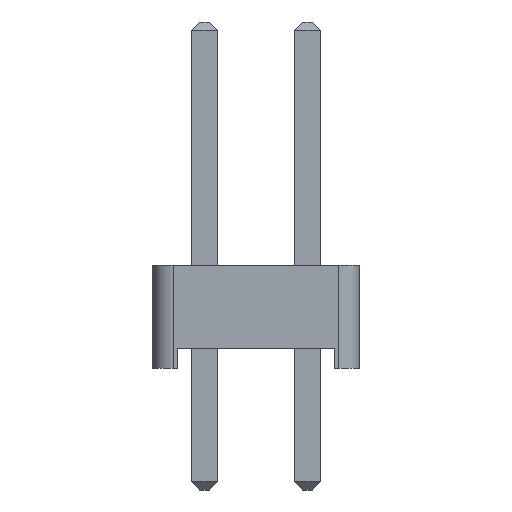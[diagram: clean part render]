
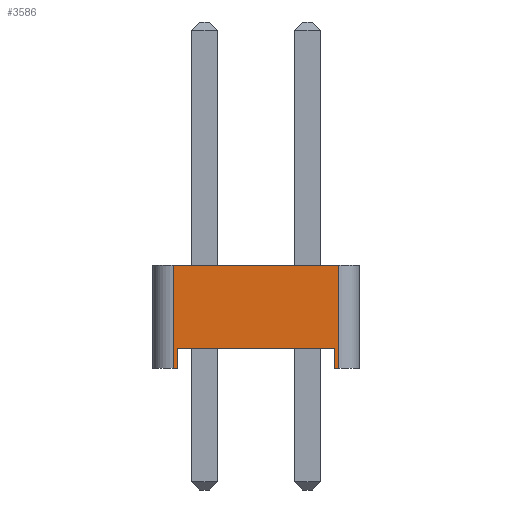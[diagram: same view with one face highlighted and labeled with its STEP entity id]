
A CAD part, left-side view. The second image highlights one B-rep face of the part: STEP entity #3586.
In plain terms, the highlighted planar face has unit normal (-1, 0, 0).
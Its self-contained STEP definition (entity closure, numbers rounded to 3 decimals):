
#3326 = VERTEX_POINT('',#3327);
#3327 = CARTESIAN_POINT('',(-1.27,2.04,0.));
#3335 = PLANE('',#3336);
#3336 = AXIS2_PLACEMENT_3D('',#3337,#3338,#3339);
#3337 = CARTESIAN_POINT('',(0.,0.,0.));
#3338 = DIRECTION('',(-0.,-0.,-1.));
#3339 = DIRECTION('',(-1.,0.,0.));
#3351 = CYLINDRICAL_SURFACE('',#3352,0.5);
#3352 = AXIS2_PLACEMENT_3D('',#3353,#3354,#3355);
#3353 = CARTESIAN_POINT('',(-0.77,2.04,0.));
#3354 = DIRECTION('',(0.,0.,1.));
#3355 = DIRECTION('',(0.,1.,0.));
#3453 = VERTEX_POINT('',#3454);
#3454 = CARTESIAN_POINT('',(-1.27,1.94,0.));
#3468 = PLANE('',#3469);
#3469 = AXIS2_PLACEMENT_3D('',#3470,#3471,#3472);
#3470 = CARTESIAN_POINT('',(1.27,1.94,0.));
#3471 = DIRECTION('',(0.,-1.,0.));
#3472 = DIRECTION('',(-1.,0.,0.));
#3480 = EDGE_CURVE('',#3453,#3326,#3481,.T.);
#3481 = SURFACE_CURVE('',#3482,(#3486,#3493),.PCURVE_S1.);
#3482 = LINE('',#3483,#3484);
#3483 = CARTESIAN_POINT('',(-1.27,-2.54,0.));
#3484 = VECTOR('',#3485,1.);
#3485 = DIRECTION('',(0.,1.,0.));
#3486 = PCURVE('',#3335,#3487);
#3487 = DEFINITIONAL_REPRESENTATION('',(#3488),#3492);
#3488 = LINE('',#3489,#3490);
#3489 = CARTESIAN_POINT('',(1.27,-2.54));
#3490 = VECTOR('',#3491,1.);
#3491 = DIRECTION('',(0.,1.));
#3492 = ( GEOMETRIC_REPRESENTATION_CONTEXT(2) 
PARAMETRIC_REPRESENTATION_CONTEXT() REPRESENTATION_CONTEXT('2D SPACE',''
  ) );
#3493 = PCURVE('',#3494,#3499);
#3494 = PLANE('',#3495);
#3495 = AXIS2_PLACEMENT_3D('',#3496,#3497,#3498);
#3496 = CARTESIAN_POINT('',(-1.27,-2.54,0.));
#3497 = DIRECTION('',(-1.,0.,0.));
#3498 = DIRECTION('',(0.,1.,0.));
#3499 = DEFINITIONAL_REPRESENTATION('',(#3500),#3504);
#3500 = LINE('',#3501,#3502);
#3501 = CARTESIAN_POINT('',(0.,0.));
#3502 = VECTOR('',#3503,1.);
#3503 = DIRECTION('',(1.,0.));
#3504 = ( GEOMETRIC_REPRESENTATION_CONTEXT(2) 
PARAMETRIC_REPRESENTATION_CONTEXT() REPRESENTATION_CONTEXT('2D SPACE',''
  ) );
#3510 = EDGE_CURVE('',#3326,#3511,#3513,.T.);
#3511 = VERTEX_POINT('',#3512);
#3512 = CARTESIAN_POINT('',(-1.27,2.04,2.54));
#3513 = SURFACE_CURVE('',#3514,(#3518,#3525),.PCURVE_S1.);
#3514 = LINE('',#3515,#3516);
#3515 = CARTESIAN_POINT('',(-1.27,2.04,0.));
#3516 = VECTOR('',#3517,1.);
#3517 = DIRECTION('',(0.,0.,1.));
#3518 = PCURVE('',#3351,#3519);
#3519 = DEFINITIONAL_REPRESENTATION('',(#3520),#3524);
#3520 = LINE('',#3521,#3522);
#3521 = CARTESIAN_POINT('',(1.571,0.));
#3522 = VECTOR('',#3523,1.);
#3523 = DIRECTION('',(0.,1.));
#3524 = ( GEOMETRIC_REPRESENTATION_CONTEXT(2) 
PARAMETRIC_REPRESENTATION_CONTEXT() REPRESENTATION_CONTEXT('2D SPACE',''
  ) );
#3525 = PCURVE('',#3494,#3526);
#3526 = DEFINITIONAL_REPRESENTATION('',(#3527),#3531);
#3527 = LINE('',#3528,#3529);
#3528 = CARTESIAN_POINT('',(4.58,0.));
#3529 = VECTOR('',#3530,1.);
#3530 = DIRECTION('',(0.,-1.));
#3531 = ( GEOMETRIC_REPRESENTATION_CONTEXT(2) 
PARAMETRIC_REPRESENTATION_CONTEXT() REPRESENTATION_CONTEXT('2D SPACE',''
  ) );
#3550 = PLANE('',#3551);
#3551 = AXIS2_PLACEMENT_3D('',#3552,#3553,#3554);
#3552 = CARTESIAN_POINT('',(0.,0.,2.54));
#3553 = DIRECTION('',(-0.,-0.,-1.));
#3554 = DIRECTION('',(-1.,0.,0.));
#3586 = ADVANCED_FACE('',(#3587),#3494,.T.);
#3587 = FACE_BOUND('',#3588,.T.);
#3588 = EDGE_LOOP('',(#3589,#3619,#3647,#3668,#3669,#3670,#3693,#3721));
#3589 = ORIENTED_EDGE('',*,*,#3590,.F.);
#3590 = EDGE_CURVE('',#3591,#3593,#3595,.T.);
#3591 = VERTEX_POINT('',#3592);
#3592 = CARTESIAN_POINT('',(-1.27,-2.04,0.));
#3593 = VERTEX_POINT('',#3594);
#3594 = CARTESIAN_POINT('',(-1.27,-1.94,0.));
#3595 = SURFACE_CURVE('',#3596,(#3600,#3607),.PCURVE_S1.);
#3596 = LINE('',#3597,#3598);
#3597 = CARTESIAN_POINT('',(-1.27,-2.54,0.));
#3598 = VECTOR('',#3599,1.);
#3599 = DIRECTION('',(0.,1.,0.));
#3600 = PCURVE('',#3494,#3601);
#3601 = DEFINITIONAL_REPRESENTATION('',(#3602),#3606);
#3602 = LINE('',#3603,#3604);
#3603 = CARTESIAN_POINT('',(0.,0.));
#3604 = VECTOR('',#3605,1.);
#3605 = DIRECTION('',(1.,0.));
#3606 = ( GEOMETRIC_REPRESENTATION_CONTEXT(2) 
PARAMETRIC_REPRESENTATION_CONTEXT() REPRESENTATION_CONTEXT('2D SPACE',''
  ) );
#3607 = PCURVE('',#3608,#3613);
#3608 = PLANE('',#3609);
#3609 = AXIS2_PLACEMENT_3D('',#3610,#3611,#3612);
#3610 = CARTESIAN_POINT('',(0.,0.,0.));
#3611 = DIRECTION('',(-0.,-0.,-1.));
#3612 = DIRECTION('',(-1.,0.,0.));
#3613 = DEFINITIONAL_REPRESENTATION('',(#3614),#3618);
#3614 = LINE('',#3615,#3616);
#3615 = CARTESIAN_POINT('',(1.27,-2.54));
#3616 = VECTOR('',#3617,1.);
#3617 = DIRECTION('',(0.,1.));
#3618 = ( GEOMETRIC_REPRESENTATION_CONTEXT(2) 
PARAMETRIC_REPRESENTATION_CONTEXT() REPRESENTATION_CONTEXT('2D SPACE',''
  ) );
#3619 = ORIENTED_EDGE('',*,*,#3620,.T.);
#3620 = EDGE_CURVE('',#3591,#3621,#3623,.T.);
#3621 = VERTEX_POINT('',#3622);
#3622 = CARTESIAN_POINT('',(-1.27,-2.04,2.54));
#3623 = SURFACE_CURVE('',#3624,(#3628,#3635),.PCURVE_S1.);
#3624 = LINE('',#3625,#3626);
#3625 = CARTESIAN_POINT('',(-1.27,-2.04,0.));
#3626 = VECTOR('',#3627,1.);
#3627 = DIRECTION('',(0.,0.,1.));
#3628 = PCURVE('',#3494,#3629);
#3629 = DEFINITIONAL_REPRESENTATION('',(#3630),#3634);
#3630 = LINE('',#3631,#3632);
#3631 = CARTESIAN_POINT('',(0.5,0.));
#3632 = VECTOR('',#3633,1.);
#3633 = DIRECTION('',(0.,-1.));
#3634 = ( GEOMETRIC_REPRESENTATION_CONTEXT(2) 
PARAMETRIC_REPRESENTATION_CONTEXT() REPRESENTATION_CONTEXT('2D SPACE',''
  ) );
#3635 = PCURVE('',#3636,#3641);
#3636 = CYLINDRICAL_SURFACE('',#3637,0.5);
#3637 = AXIS2_PLACEMENT_3D('',#3638,#3639,#3640);
#3638 = CARTESIAN_POINT('',(-0.77,-2.04,0.));
#3639 = DIRECTION('',(0.,0.,1.));
#3640 = DIRECTION('',(0.,-1.,0.));
#3641 = DEFINITIONAL_REPRESENTATION('',(#3642),#3646);
#3642 = LINE('',#3643,#3644);
#3643 = CARTESIAN_POINT('',(-1.571,0.));
#3644 = VECTOR('',#3645,1.);
#3645 = DIRECTION('',(-0.,1.));
#3646 = ( GEOMETRIC_REPRESENTATION_CONTEXT(2) 
PARAMETRIC_REPRESENTATION_CONTEXT() REPRESENTATION_CONTEXT('2D SPACE',''
  ) );
#3647 = ORIENTED_EDGE('',*,*,#3648,.T.);
#3648 = EDGE_CURVE('',#3621,#3511,#3649,.T.);
#3649 = SURFACE_CURVE('',#3650,(#3654,#3661),.PCURVE_S1.);
#3650 = LINE('',#3651,#3652);
#3651 = CARTESIAN_POINT('',(-1.27,-2.54,2.54));
#3652 = VECTOR('',#3653,1.);
#3653 = DIRECTION('',(0.,1.,0.));
#3654 = PCURVE('',#3494,#3655);
#3655 = DEFINITIONAL_REPRESENTATION('',(#3656),#3660);
#3656 = LINE('',#3657,#3658);
#3657 = CARTESIAN_POINT('',(0.,-2.54));
#3658 = VECTOR('',#3659,1.);
#3659 = DIRECTION('',(1.,0.));
#3660 = ( GEOMETRIC_REPRESENTATION_CONTEXT(2) 
PARAMETRIC_REPRESENTATION_CONTEXT() REPRESENTATION_CONTEXT('2D SPACE',''
  ) );
#3661 = PCURVE('',#3550,#3662);
#3662 = DEFINITIONAL_REPRESENTATION('',(#3663),#3667);
#3663 = LINE('',#3664,#3665);
#3664 = CARTESIAN_POINT('',(1.27,-2.54));
#3665 = VECTOR('',#3666,1.);
#3666 = DIRECTION('',(0.,1.));
#3667 = ( GEOMETRIC_REPRESENTATION_CONTEXT(2) 
PARAMETRIC_REPRESENTATION_CONTEXT() REPRESENTATION_CONTEXT('2D SPACE',''
  ) );
#3668 = ORIENTED_EDGE('',*,*,#3510,.F.);
#3669 = ORIENTED_EDGE('',*,*,#3480,.F.);
#3670 = ORIENTED_EDGE('',*,*,#3671,.T.);
#3671 = EDGE_CURVE('',#3453,#3672,#3674,.T.);
#3672 = VERTEX_POINT('',#3673);
#3673 = CARTESIAN_POINT('',(-1.27,1.94,0.5));
#3674 = SURFACE_CURVE('',#3675,(#3679,#3686),.PCURVE_S1.);
#3675 = LINE('',#3676,#3677);
#3676 = CARTESIAN_POINT('',(-1.27,1.94,0.));
#3677 = VECTOR('',#3678,1.);
#3678 = DIRECTION('',(0.,0.,1.));
#3679 = PCURVE('',#3494,#3680);
#3680 = DEFINITIONAL_REPRESENTATION('',(#3681),#3685);
#3681 = LINE('',#3682,#3683);
#3682 = CARTESIAN_POINT('',(4.48,0.));
#3683 = VECTOR('',#3684,1.);
#3684 = DIRECTION('',(0.,-1.));
#3685 = ( GEOMETRIC_REPRESENTATION_CONTEXT(2) 
PARAMETRIC_REPRESENTATION_CONTEXT() REPRESENTATION_CONTEXT('2D SPACE',''
  ) );
#3686 = PCURVE('',#3468,#3687);
#3687 = DEFINITIONAL_REPRESENTATION('',(#3688),#3692);
#3688 = LINE('',#3689,#3690);
#3689 = CARTESIAN_POINT('',(2.54,0.));
#3690 = VECTOR('',#3691,1.);
#3691 = DIRECTION('',(0.,-1.));
#3692 = ( GEOMETRIC_REPRESENTATION_CONTEXT(2) 
PARAMETRIC_REPRESENTATION_CONTEXT() REPRESENTATION_CONTEXT('2D SPACE',''
  ) );
#3693 = ORIENTED_EDGE('',*,*,#3694,.T.);
#3694 = EDGE_CURVE('',#3672,#3695,#3697,.T.);
#3695 = VERTEX_POINT('',#3696);
#3696 = CARTESIAN_POINT('',(-1.27,-1.94,0.5));
#3697 = SURFACE_CURVE('',#3698,(#3702,#3709),.PCURVE_S1.);
#3698 = LINE('',#3699,#3700);
#3699 = CARTESIAN_POINT('',(-1.27,1.94,0.5));
#3700 = VECTOR('',#3701,1.);
#3701 = DIRECTION('',(0.,-1.,0.));
#3702 = PCURVE('',#3494,#3703);
#3703 = DEFINITIONAL_REPRESENTATION('',(#3704),#3708);
#3704 = LINE('',#3705,#3706);
#3705 = CARTESIAN_POINT('',(4.48,-0.5));
#3706 = VECTOR('',#3707,1.);
#3707 = DIRECTION('',(-1.,0.));
#3708 = ( GEOMETRIC_REPRESENTATION_CONTEXT(2) 
PARAMETRIC_REPRESENTATION_CONTEXT() REPRESENTATION_CONTEXT('2D SPACE',''
  ) );
#3709 = PCURVE('',#3710,#3715);
#3710 = PLANE('',#3711);
#3711 = AXIS2_PLACEMENT_3D('',#3712,#3713,#3714);
#3712 = CARTESIAN_POINT('',(0.,0.,0.5));
#3713 = DIRECTION('',(0.,0.,1.));
#3714 = DIRECTION('',(1.,0.,0.));
#3715 = DEFINITIONAL_REPRESENTATION('',(#3716),#3720);
#3716 = LINE('',#3717,#3718);
#3717 = CARTESIAN_POINT('',(-1.27,1.94));
#3718 = VECTOR('',#3719,1.);
#3719 = DIRECTION('',(0.,-1.));
#3720 = ( GEOMETRIC_REPRESENTATION_CONTEXT(2) 
PARAMETRIC_REPRESENTATION_CONTEXT() REPRESENTATION_CONTEXT('2D SPACE',''
  ) );
#3721 = ORIENTED_EDGE('',*,*,#3722,.F.);
#3722 = EDGE_CURVE('',#3593,#3695,#3723,.T.);
#3723 = SURFACE_CURVE('',#3724,(#3728,#3735),.PCURVE_S1.);
#3724 = LINE('',#3725,#3726);
#3725 = CARTESIAN_POINT('',(-1.27,-1.94,0.));
#3726 = VECTOR('',#3727,1.);
#3727 = DIRECTION('',(0.,0.,1.));
#3728 = PCURVE('',#3494,#3729);
#3729 = DEFINITIONAL_REPRESENTATION('',(#3730),#3734);
#3730 = LINE('',#3731,#3732);
#3731 = CARTESIAN_POINT('',(0.6,0.));
#3732 = VECTOR('',#3733,1.);
#3733 = DIRECTION('',(0.,-1.));
#3734 = ( GEOMETRIC_REPRESENTATION_CONTEXT(2) 
PARAMETRIC_REPRESENTATION_CONTEXT() REPRESENTATION_CONTEXT('2D SPACE',''
  ) );
#3735 = PCURVE('',#3736,#3741);
#3736 = PLANE('',#3737);
#3737 = AXIS2_PLACEMENT_3D('',#3738,#3739,#3740);
#3738 = CARTESIAN_POINT('',(-1.27,-1.94,0.));
#3739 = DIRECTION('',(0.,1.,0.));
#3740 = DIRECTION('',(1.,0.,0.));
#3741 = DEFINITIONAL_REPRESENTATION('',(#3742),#3746);
#3742 = LINE('',#3743,#3744);
#3743 = CARTESIAN_POINT('',(0.,0.));
#3744 = VECTOR('',#3745,1.);
#3745 = DIRECTION('',(0.,-1.));
#3746 = ( GEOMETRIC_REPRESENTATION_CONTEXT(2) 
PARAMETRIC_REPRESENTATION_CONTEXT() REPRESENTATION_CONTEXT('2D SPACE',''
  ) );
